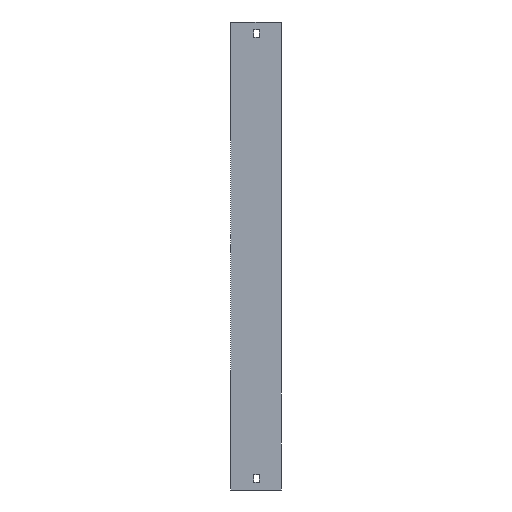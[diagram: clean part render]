
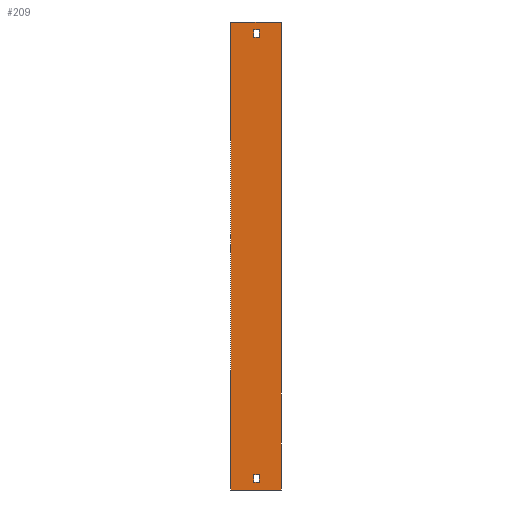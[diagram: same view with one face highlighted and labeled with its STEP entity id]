
A CAD part, left-side view. The second image highlights one B-rep face of the part: STEP entity #209.
In plain terms, the highlighted planar face has unit normal (-1, 0, 0).
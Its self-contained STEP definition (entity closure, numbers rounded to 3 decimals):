
#28 = DIRECTION ( 'NONE',  ( 0., 1., 0. ) ) ;
#38 = CARTESIAN_POINT ( 'NONE',  ( -404., 0., -554. ) ) ;
#50 = EDGE_LOOP ( 'NONE', ( #193, #720, #257, #1738 ) ) ;
#67 = CARTESIAN_POINT ( 'NONE',  ( -404., 28.5, -544. ) ) ;
#68 = EDGE_CURVE ( 'NONE', #880, #599, #1684, .T. ) ;
#87 = EDGE_CURVE ( 'NONE', #276, #564, #1830, .T. ) ;
#98 = VERTEX_POINT ( 'NONE', #1245 ) ;
#103 = DIRECTION ( 'NONE',  ( 0., -1., 0. ) ) ;
#110 = LINE ( 'NONE', #1319, #1093 ) ;
#112 = FACE_BOUND ( 'NONE', #50, .T. ) ;
#122 = CARTESIAN_POINT ( 'NONE',  ( -404., 65.5, -554. ) ) ;
#154 = CARTESIAN_POINT ( 'NONE',  ( -404., 35.5, 30. ) ) ;
#193 = ORIENTED_EDGE ( 'NONE', *, *, #746, .F. ) ;
#209 = ADVANCED_FACE ( 'NONE', ( #1448, #878, #112 ), #726, .F. ) ;
#216 = ORIENTED_EDGE ( 'NONE', *, *, #548, .T. ) ;
#255 = VECTOR ( 'NONE', #711, 1000. ) ;
#257 = ORIENTED_EDGE ( 'NONE', *, *, #1773, .F. ) ;
#269 = EDGE_CURVE ( 'NONE', #98, #564, #756, .T. ) ;
#276 = VERTEX_POINT ( 'NONE', #1234 ) ;
#324 = EDGE_LOOP ( 'NONE', ( #1859, #464, #1302, #803 ) ) ;
#365 = VECTOR ( 'NONE', #795, 1000. ) ;
#436 = CARTESIAN_POINT ( 'NONE',  ( -404., 35.5, -534. ) ) ;
#453 = VECTOR ( 'NONE', #28, 1000. ) ;
#456 = AXIS2_PLACEMENT_3D ( 'NONE', #1339, #1072, #1507 ) ;
#464 = ORIENTED_EDGE ( 'NONE', *, *, #269, .F. ) ;
#468 = LINE ( 'NONE', #607, #1594 ) ;
#548 = EDGE_CURVE ( 'NONE', #599, #947, #1342, .T. ) ;
#564 = VERTEX_POINT ( 'NONE', #969 ) ;
#599 = VERTEX_POINT ( 'NONE', #154 ) ;
#607 = CARTESIAN_POINT ( 'NONE',  ( -404., 35.5, -544. ) ) ;
#678 = LINE ( 'NONE', #1856, #1862 ) ;
#711 = DIRECTION ( 'NONE',  ( 0., 1., 0. ) ) ;
#720 = ORIENTED_EDGE ( 'NONE', *, *, #1622, .F. ) ;
#726 = PLANE ( 'NONE',  #456 ) ;
#730 = EDGE_LOOP ( 'NONE', ( #216, #1008, #911, #744 ) ) ;
#738 = VECTOR ( 'NONE', #1471, 1000. ) ;
#744 = ORIENTED_EDGE ( 'NONE', *, *, #68, .T. ) ;
#746 = EDGE_CURVE ( 'NONE', #1071, #1153, #1823, .T. ) ;
#756 = LINE ( 'NONE', #1669, #1263 ) ;
#757 = EDGE_CURVE ( 'NONE', #1692, #880, #1428, .T. ) ;
#795 = DIRECTION ( 'NONE',  ( 0., 0., 1. ) ) ;
#803 = ORIENTED_EDGE ( 'NONE', *, *, #1624, .T. ) ;
#860 = DIRECTION ( 'NONE',  ( 0., -1., 0. ) ) ;
#878 = FACE_BOUND ( 'NONE', #730, .T. ) ;
#879 = DIRECTION ( 'NONE',  ( 0., 0., -1. ) ) ;
#880 = VERTEX_POINT ( 'NONE', #1664 ) ;
#911 = ORIENTED_EDGE ( 'NONE', *, *, #757, .T. ) ;
#938 = CARTESIAN_POINT ( 'NONE',  ( -404., 28.5, -544. ) ) ;
#947 = VERTEX_POINT ( 'NONE', #1683 ) ;
#966 = EDGE_CURVE ( 'NONE', #947, #1692, #678, .T. ) ;
#969 = CARTESIAN_POINT ( 'NONE',  ( -404., 0., 50. ) ) ;
#1005 = LINE ( 'NONE', #1582, #255 ) ;
#1008 = ORIENTED_EDGE ( 'NONE', *, *, #966, .T. ) ;
#1071 = VERTEX_POINT ( 'NONE', #1325 ) ;
#1072 = DIRECTION ( 'NONE',  ( 1., 0., 0. ) ) ;
#1093 = VECTOR ( 'NONE', #1189, 1000. ) ;
#1123 = VECTOR ( 'NONE', #103, 1000. ) ;
#1148 = CARTESIAN_POINT ( 'NONE',  ( -404., 28.5, 40. ) ) ;
#1153 = VERTEX_POINT ( 'NONE', #67 ) ;
#1185 = CARTESIAN_POINT ( 'NONE',  ( -404., 65.5, -554. ) ) ;
#1189 = DIRECTION ( 'NONE',  ( 0., 0., 1. ) ) ;
#1214 = VERTEX_POINT ( 'NONE', #1261 ) ;
#1234 = CARTESIAN_POINT ( 'NONE',  ( -404., 0., -554. ) ) ;
#1237 = VECTOR ( 'NONE', #1465, 1000. ) ;
#1245 = CARTESIAN_POINT ( 'NONE',  ( -404., 65.5, 50. ) ) ;
#1258 = CARTESIAN_POINT ( 'NONE',  ( -404., 35.5, 30. ) ) ;
#1261 = CARTESIAN_POINT ( 'NONE',  ( -404., 28.5, -534. ) ) ;
#1263 = VECTOR ( 'NONE', #1822, 1000. ) ;
#1302 = ORIENTED_EDGE ( 'NONE', *, *, #1379, .F. ) ;
#1314 = CARTESIAN_POINT ( 'NONE',  ( -404., 28.5, 40. ) ) ;
#1319 = CARTESIAN_POINT ( 'NONE',  ( -404., 65.5, -554. ) ) ;
#1325 = CARTESIAN_POINT ( 'NONE',  ( -404., 35.5, -544. ) ) ;
#1339 = CARTESIAN_POINT ( 'NONE',  ( -404., 65.5, -554. ) ) ;
#1342 = LINE ( 'NONE', #1500, #1237 ) ;
#1379 = EDGE_CURVE ( 'NONE', #1908, #98, #110, .T. ) ;
#1428 = LINE ( 'NONE', #1148, #1539 ) ;
#1448 = FACE_OUTER_BOUND ( 'NONE', #324, .T. ) ;
#1463 = LINE ( 'NONE', #122, #738 ) ;
#1465 = DIRECTION ( 'NONE',  ( 0., 0., 1. ) ) ;
#1471 = DIRECTION ( 'NONE',  ( 0., -1., 0. ) ) ;
#1482 = EDGE_CURVE ( 'NONE', #1153, #1214, #1527, .T. ) ;
#1500 = CARTESIAN_POINT ( 'NONE',  ( -404., 35.5, 40. ) ) ;
#1507 = DIRECTION ( 'NONE',  ( 0., 0., -1. ) ) ;
#1527 = LINE ( 'NONE', #938, #365 ) ;
#1535 = DIRECTION ( 'NONE',  ( 0., 0., 1. ) ) ;
#1539 = VECTOR ( 'NONE', #1887, 1000. ) ;
#1582 = CARTESIAN_POINT ( 'NONE',  ( -404., 35.5, -534. ) ) ;
#1594 = VECTOR ( 'NONE', #879, 1000. ) ;
#1622 = EDGE_CURVE ( 'NONE', #1850, #1071, #468, .T. ) ;
#1624 = EDGE_CURVE ( 'NONE', #1908, #276, #1463, .T. ) ;
#1664 = CARTESIAN_POINT ( 'NONE',  ( -404., 28.5, 30. ) ) ;
#1669 = CARTESIAN_POINT ( 'NONE',  ( -404., 65.5, 50. ) ) ;
#1683 = CARTESIAN_POINT ( 'NONE',  ( -404., 35.5, 40. ) ) ;
#1684 = LINE ( 'NONE', #1258, #453 ) ;
#1692 = VERTEX_POINT ( 'NONE', #1314 ) ;
#1738 = ORIENTED_EDGE ( 'NONE', *, *, #1482, .F. ) ;
#1773 = EDGE_CURVE ( 'NONE', #1214, #1850, #1005, .T. ) ;
#1822 = DIRECTION ( 'NONE',  ( 0., -1., 0. ) ) ;
#1823 = LINE ( 'NONE', #1892, #1123 ) ;
#1830 = LINE ( 'NONE', #38, #1885 ) ;
#1850 = VERTEX_POINT ( 'NONE', #436 ) ;
#1856 = CARTESIAN_POINT ( 'NONE',  ( -404., 35.5, 40. ) ) ;
#1859 = ORIENTED_EDGE ( 'NONE', *, *, #87, .T. ) ;
#1862 = VECTOR ( 'NONE', #860, 1000. ) ;
#1885 = VECTOR ( 'NONE', #1535, 1000. ) ;
#1887 = DIRECTION ( 'NONE',  ( 0., 0., -1. ) ) ;
#1892 = CARTESIAN_POINT ( 'NONE',  ( -404., 35.5, -544. ) ) ;
#1908 = VERTEX_POINT ( 'NONE', #1185 ) ;
